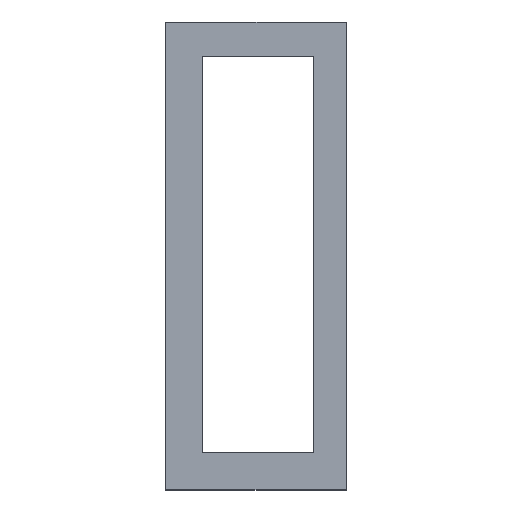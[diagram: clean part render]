
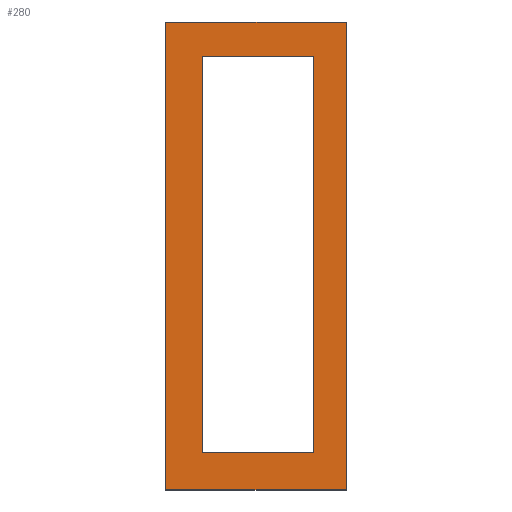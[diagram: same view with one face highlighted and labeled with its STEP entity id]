
A CAD part, top view. The second image highlights one B-rep face of the part: STEP entity #280.
In plain terms, the highlighted planar face has unit normal (0, 0, 1).
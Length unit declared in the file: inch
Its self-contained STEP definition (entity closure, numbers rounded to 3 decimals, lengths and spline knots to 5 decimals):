
#3 = EDGE_CURVE ( 'NONE', #10, #225, #128, .T. ) ;
#5 = CARTESIAN_POINT ( 'NONE',  ( 0.10074, 0.10272, 0.045 ) ) ;
#6 = VECTOR ( 'NONE', #14, 39.37008 ) ;
#10 = VERTEX_POINT ( 'NONE', #292 ) ;
#14 = DIRECTION ( 'NONE',  ( 1., 0., 0. ) ) ;
#17 = FACE_BOUND ( 'NONE', #63, .T. ) ;
#18 = VERTEX_POINT ( 'NONE', #5 ) ;
#20 = CARTESIAN_POINT ( 'NONE',  ( 0.10074, 1.20268, 0.045 ) ) ;
#21 = EDGE_CURVE ( 'NONE', #210, #10, #245, .T. ) ;
#23 = DIRECTION ( 'NONE',  ( 0., -1., 0. ) ) ;
#26 = CARTESIAN_POINT ( 'NONE',  ( 0.10074, 1.20268, 0.045 ) ) ;
#32 = DIRECTION ( 'NONE',  ( 0., -1., 0. ) ) ;
#34 = EDGE_LOOP ( 'NONE', ( #162, #202, #144, #205 ) ) ;
#36 = CARTESIAN_POINT ( 'NONE',  ( 0., 0., 0.045 ) ) ;
#39 = ORIENTED_EDGE ( 'NONE', *, *, #173, .F. ) ;
#43 = CARTESIAN_POINT ( 'NONE',  ( 0.40917, 1.20268, 0.045 ) ) ;
#53 = ORIENTED_EDGE ( 'NONE', *, *, #112, .F. ) ;
#56 = EDGE_CURVE ( 'NONE', #318, #18, #277, .T. ) ;
#63 = EDGE_LOOP ( 'NONE', ( #122, #53, #147, #39 ) ) ;
#78 = VECTOR ( 'NONE', #23, 39.37008 ) ;
#92 = DIRECTION ( 'NONE',  ( 0., 1., 0. ) ) ;
#97 = VECTOR ( 'NONE', #92, 39.37008 ) ;
#106 = VECTOR ( 'NONE', #263, 39.37008 ) ;
#110 = PLANE ( 'NONE',  #327 ) ;
#112 = EDGE_CURVE ( 'NONE', #230, #318, #299, .T. ) ;
#122 = ORIENTED_EDGE ( 'NONE', *, *, #56, .F. ) ;
#123 = CARTESIAN_POINT ( 'NONE',  ( 0.40917, 1.20268, 0.045 ) ) ;
#128 = LINE ( 'NONE', #185, #199 ) ;
#131 = CARTESIAN_POINT ( 'NONE',  ( 0., 1.29921, 0.045 ) ) ;
#133 = CARTESIAN_POINT ( 'NONE',  ( 0., 0., 0.045 ) ) ;
#139 = CARTESIAN_POINT ( 'NONE',  ( 0.40917, 0.10272, 0.045 ) ) ;
#144 = ORIENTED_EDGE ( 'NONE', *, *, #21, .T. ) ;
#146 = LINE ( 'NONE', #255, #276 ) ;
#147 = ORIENTED_EDGE ( 'NONE', *, *, #283, .F. ) ;
#155 = LINE ( 'NONE', #184, #6 ) ;
#162 = ORIENTED_EDGE ( 'NONE', *, *, #258, .T. ) ;
#168 = FACE_OUTER_BOUND ( 'NONE', #34, .T. ) ;
#173 = EDGE_CURVE ( 'NONE', #18, #307, #155, .T. ) ;
#182 = CARTESIAN_POINT ( 'NONE',  ( 0.5, 0., 0.045 ) ) ;
#184 = CARTESIAN_POINT ( 'NONE',  ( 0.10074, 0.10272, 0.045 ) ) ;
#185 = CARTESIAN_POINT ( 'NONE',  ( 0., 1.29921, 0.045 ) ) ;
#186 = CARTESIAN_POINT ( 'NONE',  ( 0.10074, 1.20268, 0.045 ) ) ;
#199 = VECTOR ( 'NONE', #235, 39.37008 ) ;
#202 = ORIENTED_EDGE ( 'NONE', *, *, #215, .T. ) ;
#205 = ORIENTED_EDGE ( 'NONE', *, *, #3, .T. ) ;
#210 = VERTEX_POINT ( 'NONE', #182 ) ;
#212 = CARTESIAN_POINT ( 'NONE',  ( 0., 0., 0.045 ) ) ;
#213 = VERTEX_POINT ( 'NONE', #133 ) ;
#215 = EDGE_CURVE ( 'NONE', #213, #210, #234, .T. ) ;
#225 = VERTEX_POINT ( 'NONE', #131 ) ;
#230 = VERTEX_POINT ( 'NONE', #123 ) ;
#234 = LINE ( 'NONE', #36, #106 ) ;
#235 = DIRECTION ( 'NONE',  ( -1., 0., 0. ) ) ;
#239 = DIRECTION ( 'NONE',  ( -1., 0., 0. ) ) ;
#242 = LINE ( 'NONE', #43, #320 ) ;
#245 = LINE ( 'NONE', #308, #97 ) ;
#250 = VECTOR ( 'NONE', #329, 39.37008 ) ;
#255 = CARTESIAN_POINT ( 'NONE',  ( 0., 0., 0.045 ) ) ;
#258 = EDGE_CURVE ( 'NONE', #225, #213, #146, .T. ) ;
#263 = DIRECTION ( 'NONE',  ( 1., 0., 0. ) ) ;
#276 = VECTOR ( 'NONE', #32, 39.37008 ) ;
#277 = LINE ( 'NONE', #20, #78 ) ;
#280 = ADVANCED_FACE ( 'NONE', ( #168, #17 ), #110, .F. ) ;
#283 = EDGE_CURVE ( 'NONE', #307, #230, #242, .T. ) ;
#292 = CARTESIAN_POINT ( 'NONE',  ( 0.5, 1.29921, 0.045 ) ) ;
#293 = DIRECTION ( 'NONE',  ( 0., 1., 0. ) ) ;
#299 = LINE ( 'NONE', #26, #250 ) ;
#307 = VERTEX_POINT ( 'NONE', #139 ) ;
#308 = CARTESIAN_POINT ( 'NONE',  ( 0.5, 0., 0.045 ) ) ;
#318 = VERTEX_POINT ( 'NONE', #186 ) ;
#320 = VECTOR ( 'NONE', #293, 39.37008 ) ;
#325 = DIRECTION ( 'NONE',  ( 0., 0., -1. ) ) ;
#327 = AXIS2_PLACEMENT_3D ( 'NONE', #212, #325, #239 ) ;
#329 = DIRECTION ( 'NONE',  ( -1., 0., 0. ) ) ;
